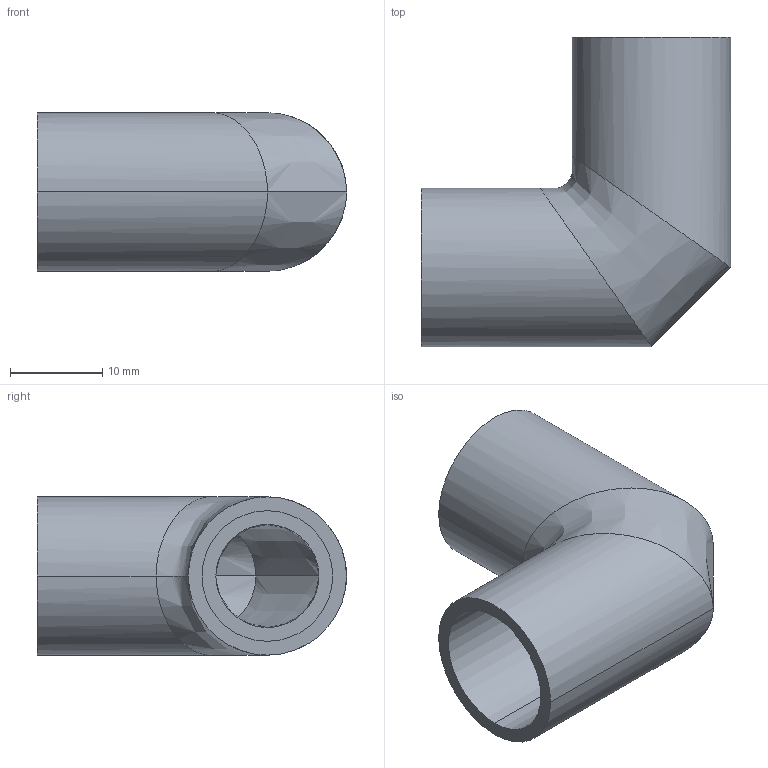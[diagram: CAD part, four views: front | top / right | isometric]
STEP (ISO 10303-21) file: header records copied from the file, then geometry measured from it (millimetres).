
FILE_DESCRIPTION (( 'STEP AP203' ), '1' );
FILE_NAME ('3D_I 222_17-17.2_17177180.STEP', '2024-09-03T12:02:55', ( '' ), ( '' ), 'SwSTEP 2.0', 'SolidWorks 2024', '' );
FILE_SCHEMA (( 'CONFIG_CONTROL_DESIGN' ));
Length unit declared in the file: millimetre
Products named in the file (1): 3D_I 222_17-17.2_17177180
Bounding box: 33.6 x 33.61 x 17.2 mm (x, y, z)
Volume: 5145.6 mm3; surface area: 4688.8 mm2
Topology: 1 solids, 1 shells, 20 faces, 40 edges, 24 vertices
Faces by surface type: bspline 12, cylinder 4, plane 4
Entity records: 7809 total; most frequent: CARTESIAN_POINT 7385, ORIENTED_EDGE 80, DIRECTION 46, EDGE_CURVE 40, B_SPLINE_CURVE_WITH_KNOTS 24, VERTEX_POINT 24, EDGE_LOOP 24, AXIS2_PLACEMENT_3D 21
